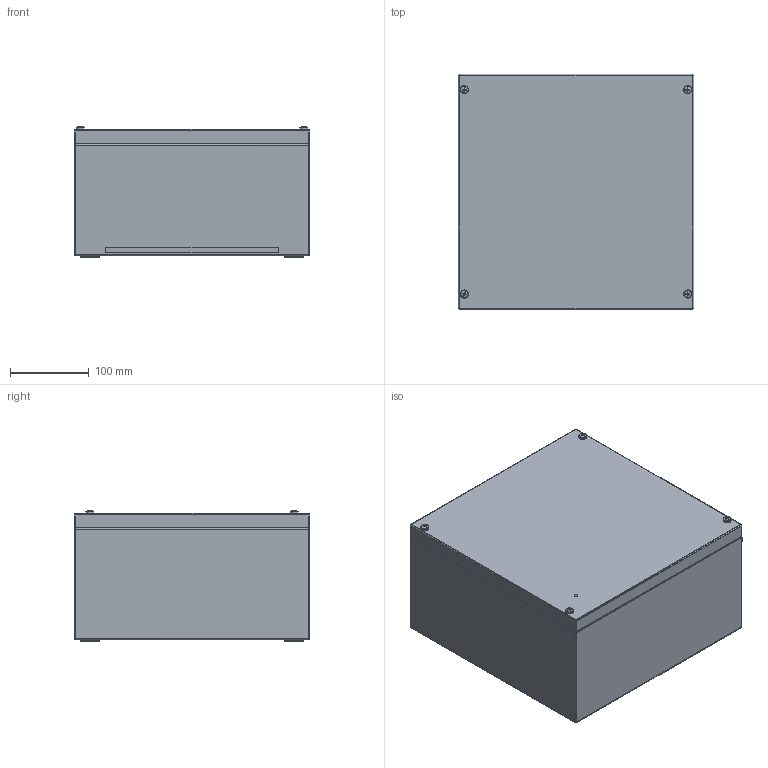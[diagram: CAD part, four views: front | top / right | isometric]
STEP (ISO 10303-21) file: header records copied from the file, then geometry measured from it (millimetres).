
FILE_DESCRIPTION (( 'STEP AP203' ), '1' );
FILE_NAME ('SS JB-300 x 300 x 161-ASSEMBLY.STEP', '2020-03-13T11:00:21', ( '' ), ( '' ), 'SwSTEP 2.0', 'SolidWorks 2018', '' );
FILE_SCHEMA (( 'CONFIG_CONTROL_DESIGN' ));
Length unit declared in the file: millimetre
Products named in the file (7): SS JB-300 x 300 x 161-LID_300 x 300 x 161; M5 BLIND NUTSERT; SS JB-300 x 300 x 161-ASSEMBLY; SS JB-300 x 300 x 161-BASE_300 x 300 x 161; Dinral Mounting Channel-300; M5X33 LID SCREW; PLASTIC INSERT FOR FABRICATED ENCLOSURE
Assembly tree (16 placements, depth 2):
  SS JB-300 x 300 x 161-ASSEMBLY
    SS JB-300 x 300 x 161-BASE_300 x 300 x 161
    Dinral Mounting Channel-300  x2
    SS JB-300 x 300 x 161-LID_300 x 300 x 161
    M5 BLIND NUTSERT  x4
    M5X33 LID SCREW  x4
    PLASTIC INSERT FOR FABRICATED ENCLOSURE  x4
Bounding box: 300 x 300 x 166.81 mm (x, y, z)
Volume: 523550.4 mm3; surface area: 851767.9 mm2
Topology: 16 solids, 16 shells, 779 faces, 1894 edges, 1180 vertices
Faces by surface type: cylinder 370, plane 265, cone 104, bspline 32, sphere 8
Entity records: 16315 total; most frequent: CARTESIAN_POINT 5204, ORIENTED_EDGE 2160, DIRECTION 1955, EDGE_CURVE 1080, AXIS2_PLACEMENT_3D 678, VERTEX_POINT 658, LINE 599, VECTOR 599
